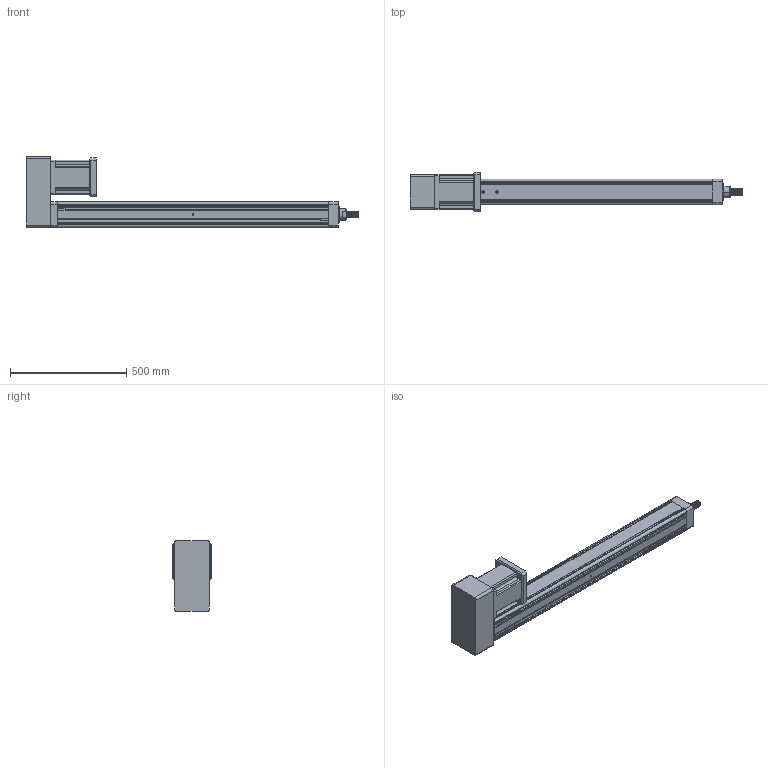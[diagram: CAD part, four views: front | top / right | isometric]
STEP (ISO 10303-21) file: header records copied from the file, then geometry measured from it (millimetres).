
FILE_DESCRIPTION (( 'STEP AP203' ), '1' );
FILE_NAME ('YRJ110-L1000-H1K1.STEP', '2020-01-04T05:48:18', ( 'User' ), ( 'China' ), 'SwSTEP 2.0', 'SolidWorks 2016', '' );
FILE_SCHEMA (( 'CONFIG_CONTROL_DESIGN' ));
Length unit declared in the file: millimetre
Products named in the file (7): H1-110-2; K1-110; 萇儂碟-110; 142熬厒儂; YRJ110-L1000-H1K1; 095-100俴最倰第; H1-110-1
Assembly tree (6 placements, depth 2):
  YRJ110-L1000-H1K1
    095-100俴最倰第
    H1-110-1
    H1-110-2
    K1-110
    萇儂碟-110
    142熬厒儂
Bounding box: 1431 x 168 x 305.5 mm (x, y, z)
Volume: 14600493.9 mm3; surface area: 1491079.5 mm2
Topology: 6 solids, 6 shells, 364 faces, 1005 edges, 644 vertices
Faces by surface type: plane 165, cylinder 160, cone 35, bspline 4
Entity records: 20176 total; most frequent: CARTESIAN_POINT 10347, ORIENTED_EDGE 1962, DIRECTION 1833, EDGE_CURVE 981, VERTEX_POINT 644, LINE 613, VECTOR 613, AXIS2_PLACEMENT_3D 610
